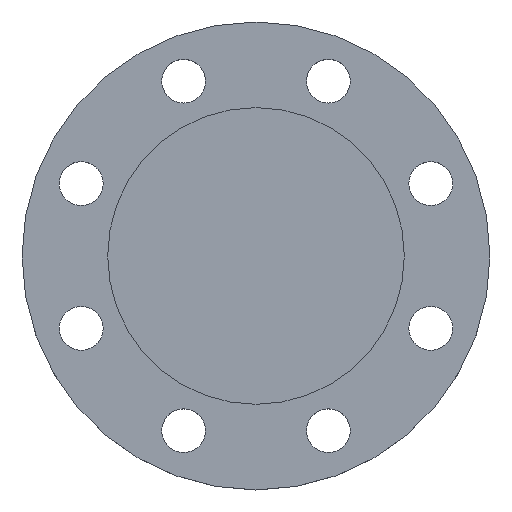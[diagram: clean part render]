
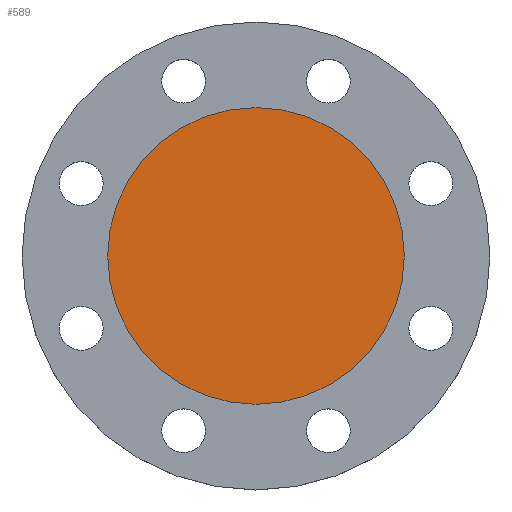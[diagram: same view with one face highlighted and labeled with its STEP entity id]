
A CAD part, top view. The second image highlights one B-rep face of the part: STEP entity #589.
In plain terms, the highlighted planar face has unit normal (0, 0, 1).
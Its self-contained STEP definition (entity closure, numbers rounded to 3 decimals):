
#94 = CARTESIAN_POINT ( 'NONE',  ( -74.5, 0., 0. ) ) ;
#160 = DIRECTION ( 'NONE',  ( -1., 0., 0. ) ) ;
#166 = DIRECTION ( 'NONE',  ( -1., 0., 0. ) ) ;
#170 = CIRCLE ( 'NONE', #893, 74.5 ) ;
#178 = DIRECTION ( 'NONE',  ( 1., 0., 0. ) ) ;
#265 = PLANE ( 'NONE',  #550 ) ;
#268 = CIRCLE ( 'NONE', #554, 74.5 ) ;
#469 = EDGE_CURVE ( 'NONE', #607, #630, #170, .T. ) ;
#527 = ORIENTED_EDGE ( 'NONE', *, *, #549, .F. ) ;
#549 = EDGE_CURVE ( 'NONE', #630, #607, #268, .T. ) ;
#550 = AXIS2_PLACEMENT_3D ( 'NONE', #599, #909, #178 ) ;
#554 = AXIS2_PLACEMENT_3D ( 'NONE', #593, #904, #166 ) ;
#584 = CARTESIAN_POINT ( 'NONE',  ( 0., 0., 0. ) ) ;
#589 = ADVANCED_FACE ( 'NONE', ( #977 ), #265, .T. ) ;
#593 = CARTESIAN_POINT ( 'NONE',  ( 0., 0., 0. ) ) ;
#599 = CARTESIAN_POINT ( 'NONE',  ( 0., 0., 0. ) ) ;
#607 = VERTEX_POINT ( 'NONE', #94 ) ;
#630 = VERTEX_POINT ( 'NONE', #689 ) ;
#689 = CARTESIAN_POINT ( 'NONE',  ( 74.5, 0., 0. ) ) ;
#842 = EDGE_LOOP ( 'NONE', ( #1020, #527 ) ) ;
#893 = AXIS2_PLACEMENT_3D ( 'NONE', #584, #896, #160 ) ;
#896 = DIRECTION ( 'NONE',  ( 0., 0., -1. ) ) ;
#904 = DIRECTION ( 'NONE',  ( 0., 0., -1. ) ) ;
#909 = DIRECTION ( 'NONE',  ( 0., 0., 1. ) ) ;
#977 = FACE_OUTER_BOUND ( 'NONE', #842, .T. ) ;
#1020 = ORIENTED_EDGE ( 'NONE', *, *, #469, .F. ) ;
